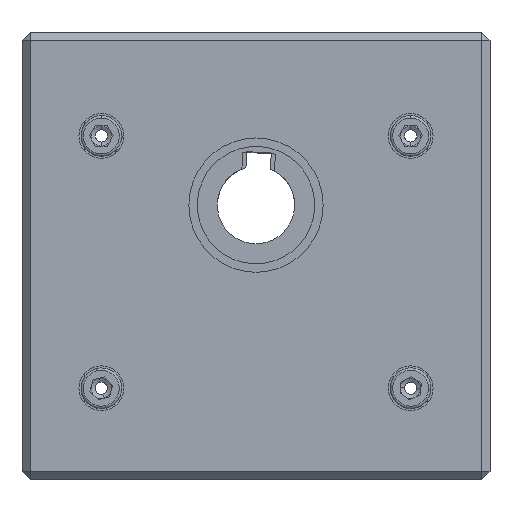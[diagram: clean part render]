
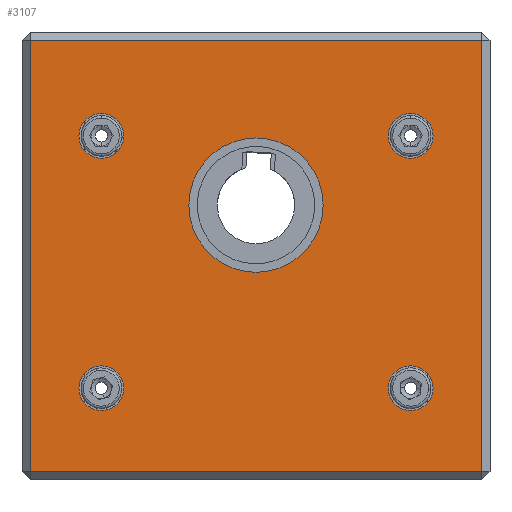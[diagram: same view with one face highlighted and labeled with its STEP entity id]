
A CAD part, left-side view. The second image highlights one B-rep face of the part: STEP entity #3107.
In plain terms, the highlighted planar face has unit normal (-1, 0, 0).
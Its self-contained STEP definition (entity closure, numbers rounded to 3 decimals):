
#99 = ORIENTED_EDGE ( 'NONE', *, *, #8018, .T. ) ;
#154 = CARTESIAN_POINT ( 'NONE',  ( -114.245, -54.96, -28.7 ) ) ;
#208 = CARTESIAN_POINT ( 'NONE',  ( -114.245, -37.46, -8.2 ) ) ;
#240 = CARTESIAN_POINT ( 'NONE',  ( -114.245, -54.96, 77.3 ) ) ;
#552 = DIRECTION ( 'NONE',  ( 1., 0., 0. ) ) ;
#870 = EDGE_CURVE ( 'NONE', #2937, #9950, #3650, .T. ) ;
#986 = AXIS2_PLACEMENT_3D ( 'NONE', #9472, #2665, #9112 ) ;
#1014 = DIRECTION ( 'NONE',  ( 1., 0., 0. ) ) ;
#1036 = VERTEX_POINT ( 'NONE', #4390 ) ;
#1051 = DIRECTION ( 'NONE',  ( -1., 0., 0. ) ) ;
#1104 = LINE ( 'NONE', #4461, #1490 ) ;
#1162 = DIRECTION ( 'NONE',  ( 0., 0., -1. ) ) ;
#1203 = CARTESIAN_POINT ( 'NONE',  ( -114.245, 38.54, 48.3 ) ) ;
#1319 = ORIENTED_EDGE ( 'NONE', *, *, #10047, .T. ) ;
#1478 = ORIENTED_EDGE ( 'NONE', *, *, #9981, .T. ) ;
#1490 = VECTOR ( 'NONE', #1162, 1000. ) ;
#1583 = FACE_OUTER_BOUND ( 'NONE', #2890, .T. ) ;
#1606 = EDGE_CURVE ( 'NONE', #4770, #6636, #9015, .T. ) ;
#1837 = CARTESIAN_POINT ( 'NONE',  ( -114.245, 0.54, 20.3 ) ) ;
#1850 = DIRECTION ( 'NONE',  ( 0., 0., -1. ) ) ;
#1854 = CIRCLE ( 'NONE', #9524, 5.5 ) ;
#2083 = DIRECTION ( 'NONE',  ( -1., 0., 0. ) ) ;
#2102 = EDGE_CURVE ( 'NONE', #7788, #2446, #9897, .T. ) ;
#2173 = AXIS2_PLACEMENT_3D ( 'NONE', #6162, #4474, #2689 ) ;
#2187 = ORIENTED_EDGE ( 'NONE', *, *, #5173, .T. ) ;
#2214 = CARTESIAN_POINT ( 'NONE',  ( -114.245, 0.54, 36.8 ) ) ;
#2216 = DIRECTION ( 'NONE',  ( -1., 0., 0. ) ) ;
#2437 = CARTESIAN_POINT ( 'NONE',  ( -114.245, 58.04, 77.3 ) ) ;
#2446 = VERTEX_POINT ( 'NONE', #2837 ) ;
#2517 = CIRCLE ( 'NONE', #2704, 16.5 ) ;
#2526 = CARTESIAN_POINT ( 'NONE',  ( -114.245, 38.54, -8.2 ) ) ;
#2537 = AXIS2_PLACEMENT_3D ( 'NONE', #2214, #3884, #5736 ) ;
#2665 = DIRECTION ( 'NONE',  ( 1., 0., 0. ) ) ;
#2689 = DIRECTION ( 'NONE',  ( 0., 0., -1. ) ) ;
#2704 = AXIS2_PLACEMENT_3D ( 'NONE', #5530, #9775, #7106 ) ;
#2800 = ORIENTED_EDGE ( 'NONE', *, *, #5853, .T. ) ;
#2837 = CARTESIAN_POINT ( 'NONE',  ( -114.245, -37.46, -13.7 ) ) ;
#2890 = EDGE_LOOP ( 'NONE', ( #4438, #2187, #2800, #3342 ) ) ;
#2909 = VECTOR ( 'NONE', #8598, 1000. ) ;
#2937 = VERTEX_POINT ( 'NONE', #1203 ) ;
#3107 = ADVANCED_FACE ( 'NONE', ( #1583, #11037, #4157, #6682, #10928, #5791 ), #3281, .T. ) ;
#3281 = PLANE ( 'NONE',  #5158 ) ;
#3342 = ORIENTED_EDGE ( 'NONE', *, *, #3906, .T. ) ;
#3650 = CIRCLE ( 'NONE', #6506, 5.5 ) ;
#3732 = DIRECTION ( 'NONE',  ( 0., 0., 1. ) ) ;
#3762 = AXIS2_PLACEMENT_3D ( 'NONE', #10901, #552, #4079 ) ;
#3777 = VERTEX_POINT ( 'NONE', #11003 ) ;
#3884 = DIRECTION ( 'NONE',  ( 1., 0., 0. ) ) ;
#3906 = EDGE_CURVE ( 'NONE', #8945, #6662, #7963, .T. ) ;
#4079 = DIRECTION ( 'NONE',  ( 0., 0., -1. ) ) ;
#4116 = EDGE_CURVE ( 'NONE', #6662, #6041, #10081, .T. ) ;
#4157 = FACE_BOUND ( 'NONE', #8477, .T. ) ;
#4229 = CARTESIAN_POINT ( 'NONE',  ( -114.245, -56.96, -28.7 ) ) ;
#4241 = VERTEX_POINT ( 'NONE', #8681 ) ;
#4390 = CARTESIAN_POINT ( 'NONE',  ( -114.245, 56.04, -28.7 ) ) ;
#4438 = ORIENTED_EDGE ( 'NONE', *, *, #4116, .T. ) ;
#4461 = CARTESIAN_POINT ( 'NONE',  ( -114.245, 56.04, -30.7 ) ) ;
#4474 = DIRECTION ( 'NONE',  ( 1., 0., 0. ) ) ;
#4518 = AXIS2_PLACEMENT_3D ( 'NONE', #2526, #1014, #1850 ) ;
#4770 = VERTEX_POINT ( 'NONE', #7875 ) ;
#4848 = AXIS2_PLACEMENT_3D ( 'NONE', #208, #1051, #3732 ) ;
#4875 = EDGE_LOOP ( 'NONE', ( #5772, #99 ) ) ;
#5158 = AXIS2_PLACEMENT_3D ( 'NONE', #7576, #10987, #6739 ) ;
#5173 = EDGE_CURVE ( 'NONE', #6041, #1036, #1104, .T. ) ;
#5284 = CARTESIAN_POINT ( 'NONE',  ( -114.245, 56.04, 77.3 ) ) ;
#5314 = CARTESIAN_POINT ( 'NONE',  ( -114.245, 38.54, 59.3 ) ) ;
#5467 = ORIENTED_EDGE ( 'NONE', *, *, #10355, .F. ) ;
#5530 = CARTESIAN_POINT ( 'NONE',  ( -114.245, 0.54, 36.8 ) ) ;
#5544 = DIRECTION ( 'NONE',  ( 0., 0., 1. ) ) ;
#5569 = DIRECTION ( 'NONE',  ( 0., 0., 1. ) ) ;
#5613 = ORIENTED_EDGE ( 'NONE', *, *, #5697, .F. ) ;
#5697 = EDGE_CURVE ( 'NONE', #9950, #2937, #1854, .T. ) ;
#5736 = DIRECTION ( 'NONE',  ( 0., 0., -1. ) ) ;
#5772 = ORIENTED_EDGE ( 'NONE', *, *, #1606, .T. ) ;
#5782 = AXIS2_PLACEMENT_3D ( 'NONE', #7289, #2083, #5544 ) ;
#5791 = FACE_BOUND ( 'NONE', #4875, .T. ) ;
#5853 = EDGE_CURVE ( 'NONE', #1036, #8945, #9423, .T. ) ;
#6041 = VERTEX_POINT ( 'NONE', #5284 ) ;
#6162 = CARTESIAN_POINT ( 'NONE',  ( -114.245, -37.46, 53.8 ) ) ;
#6335 = CARTESIAN_POINT ( 'NONE',  ( -114.245, 38.54, -2.7 ) ) ;
#6506 = AXIS2_PLACEMENT_3D ( 'NONE', #9755, #2216, #5569 ) ;
#6636 = VERTEX_POINT ( 'NONE', #6335 ) ;
#6643 = CIRCLE ( 'NONE', #4848, 5.5 ) ;
#6662 = VERTEX_POINT ( 'NONE', #240 ) ;
#6682 = FACE_BOUND ( 'NONE', #7507, .T. ) ;
#6739 = DIRECTION ( 'NONE',  ( 0., 0., 1. ) ) ;
#6761 = ORIENTED_EDGE ( 'NONE', *, *, #8683, .T. ) ;
#7106 = DIRECTION ( 'NONE',  ( 0., 0., -1. ) ) ;
#7289 = CARTESIAN_POINT ( 'NONE',  ( -114.245, -37.46, -8.2 ) ) ;
#7507 = EDGE_LOOP ( 'NONE', ( #10632, #1478 ) ) ;
#7533 = CARTESIAN_POINT ( 'NONE',  ( -114.245, 38.54, 53.8 ) ) ;
#7576 = CARTESIAN_POINT ( 'NONE',  ( -114.245, 58.04, 36.8 ) ) ;
#7788 = VERTEX_POINT ( 'NONE', #10183 ) ;
#7875 = CARTESIAN_POINT ( 'NONE',  ( -114.245, 38.54, -13.7 ) ) ;
#7908 = EDGE_LOOP ( 'NONE', ( #8055, #5467 ) ) ;
#7950 = DIRECTION ( 'NONE',  ( 0., 1., 0. ) ) ;
#7963 = LINE ( 'NONE', #10483, #9404 ) ;
#8018 = EDGE_CURVE ( 'NONE', #6636, #4770, #9332, .T. ) ;
#8055 = ORIENTED_EDGE ( 'NONE', *, *, #2102, .F. ) ;
#8217 = VERTEX_POINT ( 'NONE', #1837 ) ;
#8477 = EDGE_LOOP ( 'NONE', ( #5613, #9010 ) ) ;
#8594 = CIRCLE ( 'NONE', #3762, 5.5 ) ;
#8598 = DIRECTION ( 'NONE',  ( 0., -1., 0. ) ) ;
#8681 = CARTESIAN_POINT ( 'NONE',  ( -114.245, -37.46, 59.3 ) ) ;
#8683 = EDGE_CURVE ( 'NONE', #10297, #4241, #10385, .T. ) ;
#8862 = DIRECTION ( 'NONE',  ( 0., 0., 1. ) ) ;
#8945 = VERTEX_POINT ( 'NONE', #154 ) ;
#9010 = ORIENTED_EDGE ( 'NONE', *, *, #870, .F. ) ;
#9015 = CIRCLE ( 'NONE', #986, 5.5 ) ;
#9111 = VECTOR ( 'NONE', #7950, 1000. ) ;
#9112 = DIRECTION ( 'NONE',  ( 0., 0., -1. ) ) ;
#9332 = CIRCLE ( 'NONE', #4518, 5.5 ) ;
#9404 = VECTOR ( 'NONE', #8862, 1000. ) ;
#9423 = LINE ( 'NONE', #4229, #2909 ) ;
#9472 = CARTESIAN_POINT ( 'NONE',  ( -114.245, 38.54, -8.2 ) ) ;
#9524 = AXIS2_PLACEMENT_3D ( 'NONE', #7533, #11058, #9539 ) ;
#9539 = DIRECTION ( 'NONE',  ( 0., 0., 1. ) ) ;
#9647 = CARTESIAN_POINT ( 'NONE',  ( -114.245, -37.46, 48.3 ) ) ;
#9755 = CARTESIAN_POINT ( 'NONE',  ( -114.245, 38.54, 53.8 ) ) ;
#9775 = DIRECTION ( 'NONE',  ( 1., 0., 0. ) ) ;
#9897 = CIRCLE ( 'NONE', #5782, 5.5 ) ;
#9950 = VERTEX_POINT ( 'NONE', #5314 ) ;
#9981 = EDGE_CURVE ( 'NONE', #3777, #8217, #2517, .T. ) ;
#10047 = EDGE_CURVE ( 'NONE', #4241, #10297, #8594, .T. ) ;
#10081 = LINE ( 'NONE', #2437, #9111 ) ;
#10183 = CARTESIAN_POINT ( 'NONE',  ( -114.245, -37.46, -2.7 ) ) ;
#10297 = VERTEX_POINT ( 'NONE', #9647 ) ;
#10355 = EDGE_CURVE ( 'NONE', #2446, #7788, #6643, .T. ) ;
#10385 = CIRCLE ( 'NONE', #2173, 5.5 ) ;
#10426 = EDGE_LOOP ( 'NONE', ( #6761, #1319 ) ) ;
#10483 = CARTESIAN_POINT ( 'NONE',  ( -114.245, -54.96, 79.3 ) ) ;
#10569 = CIRCLE ( 'NONE', #2537, 16.5 ) ;
#10632 = ORIENTED_EDGE ( 'NONE', *, *, #10910, .T. ) ;
#10901 = CARTESIAN_POINT ( 'NONE',  ( -114.245, -37.46, 53.8 ) ) ;
#10910 = EDGE_CURVE ( 'NONE', #8217, #3777, #10569, .T. ) ;
#10928 = FACE_BOUND ( 'NONE', #10426, .T. ) ;
#10987 = DIRECTION ( 'NONE',  ( -1., 0., 0. ) ) ;
#11003 = CARTESIAN_POINT ( 'NONE',  ( -114.245, 0.54, 53.3 ) ) ;
#11037 = FACE_BOUND ( 'NONE', #7908, .T. ) ;
#11058 = DIRECTION ( 'NONE',  ( -1., 0., 0. ) ) ;
